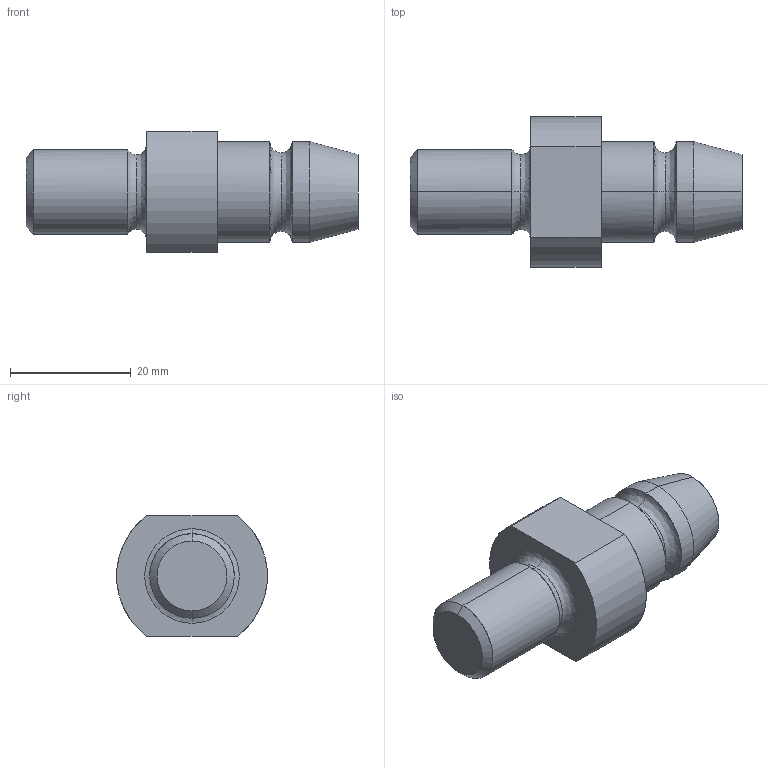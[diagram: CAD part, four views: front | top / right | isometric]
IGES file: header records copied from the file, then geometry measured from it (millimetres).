
Start section: START RECORD GO HERE.
Global section: file name: AGS3401M14.igs; native system: DASSAULT SYSTEMES CATIA V5 R20 - www.3ds.com; preprocessor: CATIA Version 5 Release 20 ; author: Utente; organization: NB04-ASUS; date: 20210221.201321; units: millimetre
Bounding box: 55 x 25 x 20 mm (x, y, z)
Surface area: 3773.4 mm2 (no closed solid volume)
Topology: 0 solids, 0 shells, 26 faces, 140 edges, 140 vertices
Faces by surface type: revolution 20, plane 6
